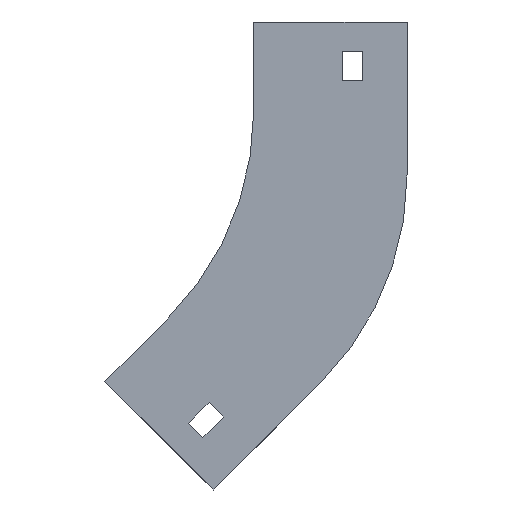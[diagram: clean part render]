
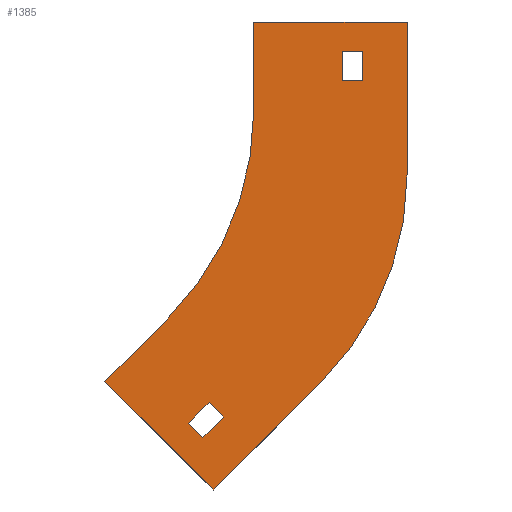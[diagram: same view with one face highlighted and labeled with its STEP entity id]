
A CAD part, left-side view. The second image highlights one B-rep face of the part: STEP entity #1385.
In plain terms, the highlighted planar face has unit normal (-1, 0, 0).
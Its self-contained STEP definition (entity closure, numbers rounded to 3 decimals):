
#2 = CIRCLE ( 'NONE', #351, 100. ) ;
#3 = VERTEX_POINT ( 'NONE', #1402 ) ;
#4 = VECTOR ( 'NONE', #1265, 1000. ) ;
#32 = VERTEX_POINT ( 'NONE', #652 ) ;
#34 = CARTESIAN_POINT ( 'NONE',  ( -252., 22.218, -136.066 ) ) ;
#41 = CARTESIAN_POINT ( 'NONE',  ( -252., 17.269, -141.016 ) ) ;
#44 = DIRECTION ( 'NONE',  ( 0., 0.707, -0.707 ) ) ;
#60 = CARTESIAN_POINT ( 'NONE',  ( -252., -30., -10. ) ) ;
#70 = VECTOR ( 'NONE', #1281, 1000. ) ;
#74 = ORIENTED_EDGE ( 'NONE', *, *, #583, .F. ) ;
#101 = ORIENTED_EDGE ( 'NONE', *, *, #793, .T. ) ;
#105 = DIRECTION ( 'NONE',  ( 0., -1., 0. ) ) ;
#107 = VECTOR ( 'NONE', #1194, 1000. ) ;
#111 = CARTESIAN_POINT ( 'NONE',  ( -252., -52., 0. ) ) ;
#116 = VECTOR ( 'NONE', #547, 1000. ) ;
#131 = LINE ( 'NONE', #1191, #116 ) ;
#132 = EDGE_CURVE ( 'NONE', #1003, #1264, #591, .T. ) ;
#159 = CARTESIAN_POINT ( 'NONE',  ( -252., 29.289, -100.711 ) ) ;
#168 = CIRCLE ( 'NONE', #588, 100. ) ;
#174 = CARTESIAN_POINT ( 'NONE',  ( -252., 0., 0. ) ) ;
#178 = EDGE_LOOP ( 'NONE', ( #1071, #565, #322, #848 ) ) ;
#179 = LINE ( 'NONE', #34, #693 ) ;
#186 = DIRECTION ( 'NONE',  ( 1., 0., 0. ) ) ;
#187 = VECTOR ( 'NONE', #1362, 1000. ) ;
#216 = VECTOR ( 'NONE', #925, 1000. ) ;
#274 = DIRECTION ( 'NONE',  ( 0., -0.707, -0.707 ) ) ;
#288 = VECTOR ( 'NONE', #291, 1000. ) ;
#291 = DIRECTION ( 'NONE',  ( 0., 0., 1. ) ) ;
#299 = CARTESIAN_POINT ( 'NONE',  ( -252., 13.733, -158.693 ) ) ;
#309 = CARTESIAN_POINT ( 'NONE',  ( -252., -37., -10. ) ) ;
#322 = ORIENTED_EDGE ( 'NONE', *, *, #917, .F. ) ;
#329 = EDGE_CURVE ( 'NONE', #1372, #639, #495, .T. ) ;
#330 = LINE ( 'NONE', #111, #1198 ) ;
#340 = FACE_BOUND ( 'NONE', #178, .T. ) ;
#351 = AXIS2_PLACEMENT_3D ( 'NONE', #411, #186, #934 ) ;
#381 = EDGE_CURVE ( 'NONE', #771, #32, #1252, .T. ) ;
#382 = CARTESIAN_POINT ( 'NONE',  ( -252., -52., -51.539 ) ) ;
#384 = CARTESIAN_POINT ( 'NONE',  ( -252., 22.218, -136.066 ) ) ;
#408 = CARTESIAN_POINT ( 'NONE',  ( -252., -22.711, -122.25 ) ) ;
#411 = CARTESIAN_POINT ( 'NONE',  ( -252., 48., -51.539 ) ) ;
#430 = PLANE ( 'NONE',  #968 ) ;
#434 = VERTEX_POINT ( 'NONE', #737 ) ;
#450 = CARTESIAN_POINT ( 'NONE',  ( -252., 17.269, -141.016 ) ) ;
#464 = VERTEX_POINT ( 'NONE', #408 ) ;
#467 = LINE ( 'NONE', #816, #187 ) ;
#487 = EDGE_CURVE ( 'NONE', #1343, #1255, #1188, .T. ) ;
#491 = LINE ( 'NONE', #60, #692 ) ;
#494 = CARTESIAN_POINT ( 'NONE',  ( -252., 50.503, -121.924 ) ) ;
#495 = LINE ( 'NONE', #384, #681 ) ;
#497 = DIRECTION ( 'NONE',  ( 0., -1., 0. ) ) ;
#500 = LINE ( 'NONE', #382, #4 ) ;
#502 = EDGE_CURVE ( 'NONE', #974, #1267, #859, .T. ) ;
#521 = ORIENTED_EDGE ( 'NONE', *, *, #538, .F. ) ;
#524 = CARTESIAN_POINT ( 'NONE',  ( -252., 0., -30. ) ) ;
#538 = EDGE_CURVE ( 'NONE', #1230, #1343, #168, .T. ) ;
#547 = DIRECTION ( 'NONE',  ( 0., 1., 0. ) ) ;
#548 = ORIENTED_EDGE ( 'NONE', *, *, #1200, .F. ) ;
#550 = CARTESIAN_POINT ( 'NONE',  ( -252., 13.733, -158.693 ) ) ;
#565 = ORIENTED_EDGE ( 'NONE', *, *, #329, .F. ) ;
#566 = EDGE_CURVE ( 'NONE', #464, #1003, #1098, .T. ) ;
#583 = EDGE_CURVE ( 'NONE', #1255, #1291, #330, .T. ) ;
#588 = AXIS2_PLACEMENT_3D ( 'NONE', #942, #1290, #1047 ) ;
#591 = LINE ( 'NONE', #494, #216 ) ;
#611 = CARTESIAN_POINT ( 'NONE',  ( -252., -30., -20. ) ) ;
#615 = CARTESIAN_POINT ( 'NONE',  ( -252., 50.503, -121.924 ) ) ;
#639 = VERTEX_POINT ( 'NONE', #1297 ) ;
#641 = CARTESIAN_POINT ( 'NONE',  ( -252., 15.147, -128.995 ) ) ;
#647 = EDGE_CURVE ( 'NONE', #1264, #1230, #688, .T. ) ;
#652 = CARTESIAN_POINT ( 'NONE',  ( -252., 10.197, -133.945 ) ) ;
#662 = ORIENTED_EDGE ( 'NONE', *, *, #566, .F. ) ;
#681 = VECTOR ( 'NONE', #44, 1000. ) ;
#682 = DIRECTION ( 'NONE',  ( 0., -0.707, 0.707 ) ) ;
#688 = LINE ( 'NONE', #781, #1068 ) ;
#692 = VECTOR ( 'NONE', #497, 1000. ) ;
#693 = VECTOR ( 'NONE', #274, 1000. ) ;
#699 = ORIENTED_EDGE ( 'NONE', *, *, #487, .F. ) ;
#737 = CARTESIAN_POINT ( 'NONE',  ( -252., -52., -51.539 ) ) ;
#750 = DIRECTION ( 'NONE',  ( 1., 0., 0. ) ) ;
#755 = EDGE_LOOP ( 'NONE', ( #901, #1396, #1026, #101 ) ) ;
#771 = VERTEX_POINT ( 'NONE', #450 ) ;
#777 = CARTESIAN_POINT ( 'NONE',  ( -252., -37., -20. ) ) ;
#781 = CARTESIAN_POINT ( 'NONE',  ( -252., 29.289, -100.711 ) ) ;
#793 = EDGE_CURVE ( 'NONE', #798, #974, #131, .T. ) ;
#795 = VECTOR ( 'NONE', #1181, 1000. ) ;
#798 = VERTEX_POINT ( 'NONE', #777 ) ;
#800 = DIRECTION ( 'NONE',  ( 0., -0.707, 0.707 ) ) ;
#806 = ORIENTED_EDGE ( 'NONE', *, *, #999, .F. ) ;
#816 = CARTESIAN_POINT ( 'NONE',  ( -252., 15.147, -128.995 ) ) ;
#844 = CARTESIAN_POINT ( 'NONE',  ( -252., -52., 0. ) ) ;
#848 = ORIENTED_EDGE ( 'NONE', *, *, #381, .F. ) ;
#859 = LINE ( 'NONE', #1284, #795 ) ;
#861 = FACE_OUTER_BOUND ( 'NONE', #1048, .T. ) ;
#882 = FACE_BOUND ( 'NONE', #755, .T. ) ;
#901 = ORIENTED_EDGE ( 'NONE', *, *, #502, .T. ) ;
#917 = EDGE_CURVE ( 'NONE', #32, #1372, #467, .T. ) ;
#925 = DIRECTION ( 'NONE',  ( 0., 0.707, 0.707 ) ) ;
#934 = DIRECTION ( 'NONE',  ( 0., 0., 1. ) ) ;
#935 = EDGE_CURVE ( 'NONE', #639, #771, #179, .T. ) ;
#942 = CARTESIAN_POINT ( 'NONE',  ( -252., 100., -30. ) ) ;
#963 = CARTESIAN_POINT ( 'NONE',  ( -252., 100., -30. ) ) ;
#968 = AXIS2_PLACEMENT_3D ( 'NONE', #963, #750, #1306 ) ;
#974 = VERTEX_POINT ( 'NONE', #611 ) ;
#999 = EDGE_CURVE ( 'NONE', #1291, #434, #500, .T. ) ;
#1003 = VERTEX_POINT ( 'NONE', #299 ) ;
#1026 = ORIENTED_EDGE ( 'NONE', *, *, #1039, .T. ) ;
#1034 = CARTESIAN_POINT ( 'NONE',  ( -252., -30., -10. ) ) ;
#1039 = EDGE_CURVE ( 'NONE', #3, #798, #1062, .T. ) ;
#1047 = DIRECTION ( 'NONE',  ( 0., 0., -1. ) ) ;
#1048 = EDGE_LOOP ( 'NONE', ( #74, #699, #521, #1099, #1132, #662, #548, #806 ) ) ;
#1057 = CARTESIAN_POINT ( 'NONE',  ( -252., 0., 0. ) ) ;
#1062 = LINE ( 'NONE', #309, #70 ) ;
#1068 = VECTOR ( 'NONE', #682, 1000. ) ;
#1071 = ORIENTED_EDGE ( 'NONE', *, *, #935, .F. ) ;
#1098 = LINE ( 'NONE', #550, #107 ) ;
#1099 = ORIENTED_EDGE ( 'NONE', *, *, #647, .F. ) ;
#1132 = ORIENTED_EDGE ( 'NONE', *, *, #132, .F. ) ;
#1149 = VECTOR ( 'NONE', #800, 1000. ) ;
#1181 = DIRECTION ( 'NONE',  ( 0., 0., 1. ) ) ;
#1188 = LINE ( 'NONE', #1057, #288 ) ;
#1191 = CARTESIAN_POINT ( 'NONE',  ( -252., -30., -20. ) ) ;
#1194 = DIRECTION ( 'NONE',  ( 0., 0.707, -0.707 ) ) ;
#1198 = VECTOR ( 'NONE', #105, 1000. ) ;
#1200 = EDGE_CURVE ( 'NONE', #434, #464, #2, .T. ) ;
#1230 = VERTEX_POINT ( 'NONE', #159 ) ;
#1252 = LINE ( 'NONE', #41, #1149 ) ;
#1255 = VERTEX_POINT ( 'NONE', #174 ) ;
#1264 = VERTEX_POINT ( 'NONE', #615 ) ;
#1265 = DIRECTION ( 'NONE',  ( 0., 0., -1. ) ) ;
#1267 = VERTEX_POINT ( 'NONE', #1034 ) ;
#1281 = DIRECTION ( 'NONE',  ( 0., 0., -1. ) ) ;
#1284 = CARTESIAN_POINT ( 'NONE',  ( -252., -30., -10. ) ) ;
#1290 = DIRECTION ( 'NONE',  ( -1., 0., 0. ) ) ;
#1291 = VERTEX_POINT ( 'NONE', #844 ) ;
#1297 = CARTESIAN_POINT ( 'NONE',  ( -252., 22.218, -136.066 ) ) ;
#1306 = DIRECTION ( 'NONE',  ( 0., 0., -1. ) ) ;
#1330 = EDGE_CURVE ( 'NONE', #1267, #3, #491, .T. ) ;
#1343 = VERTEX_POINT ( 'NONE', #524 ) ;
#1362 = DIRECTION ( 'NONE',  ( 0., 0.707, 0.707 ) ) ;
#1372 = VERTEX_POINT ( 'NONE', #641 ) ;
#1385 = ADVANCED_FACE ( 'NONE', ( #861, #882, #340 ), #430, .F. ) ;
#1396 = ORIENTED_EDGE ( 'NONE', *, *, #1330, .T. ) ;
#1402 = CARTESIAN_POINT ( 'NONE',  ( -252., -37., -10. ) ) ;
